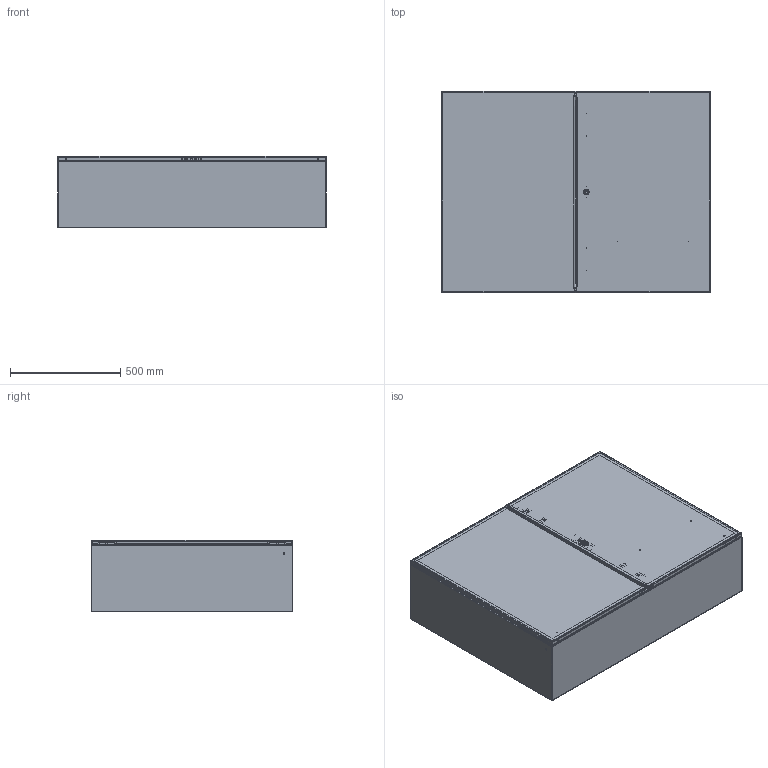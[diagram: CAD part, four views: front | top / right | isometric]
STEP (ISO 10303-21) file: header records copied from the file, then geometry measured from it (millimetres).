
FILE_DESCRIPTION (( 'STEP AP203' ), '1' );
FILE_NAME ('ctd364812.STEP', '2012-05-23T13:23:44', ( 'User' ), ( 'Pentair Inc' ), 'SwSTEP 2.0', 'SolidWorks 2010', '' );
FILE_SCHEMA (( 'CONFIG_CONTROL_DESIGN' ));
Products named in the file (38): ctd364812; 89057510; 64405005_default; 87756307_default; 23271001_After Weld; 87543027; 89076399; 89076193; 89056623; 87929507; 87929767; 87929769_Installed on Pin; 87938852_assy; 87938874_weldment; 87938832_Welded corner; 87938208; 87938864_assy; 87938884_weldment; 87938842_Welded corner; 99401225; 87931362_87931362; 87408406_Unlocked; 64102001_Latch Open; 87540678; 64210001; 64202001; 64208001; 64205001; 87541995; 87541994_Installed Height; 87927840_87927840; 64206003; 64207001; 64103001; 99411834; 64138001; 87932903; 87938890
Assembly tree (79 placements, depth 5):
  ctd364812
    89076399  x4
      89056623
      89076193
    87938852_assy
      64138001  x2
      87938874_weldment
        87938832_Welded corner
        99401225
      87938208
    87938864_assy
      87408406_Unlocked
        64207001  x2
        64102001_Latch Open
          87540678
          64205001  x2
          64202001
          87541994_Installed Height
          87927840_87927840
          87541995
          64210001
          64208001
        64206003  x2
        64103001  x4
        99411834  x2
      87932903  x6
      87938884_weldment
        87931362_87931362  x8
        87938842_Welded corner
        99401225
      64138001  x2
      87938890
    87543027  x4
    89057510
      87756307_default  x2
      23271001_After Weld  x8
      64405005_default
      99401225  x2
    87929507  x4
      87929769_Installed on Pin
      87929767
Bounding box: 1219.2 x 914.69 x 325.5 mm (x, y, z)
Volume: 7308295.7 mm3; surface area: 7827597.1 mm2
Topology: 77 solids, 77 shells, 4708 faces, 12011 edges, 7420 vertices
Faces by surface type: plane 1937, cylinder 1361, bspline 972, torus 221, cone 177, sphere 40
Entity records: 91184 total; most frequent: CARTESIAN_POINT 34476, ORIENTED_EDGE 11454, DIRECTION 9649, EDGE_CURVE 5727, VERTEX_POINT 3595, AXIS2_PLACEMENT_3D 3268, LINE 3113, VECTOR 3113
